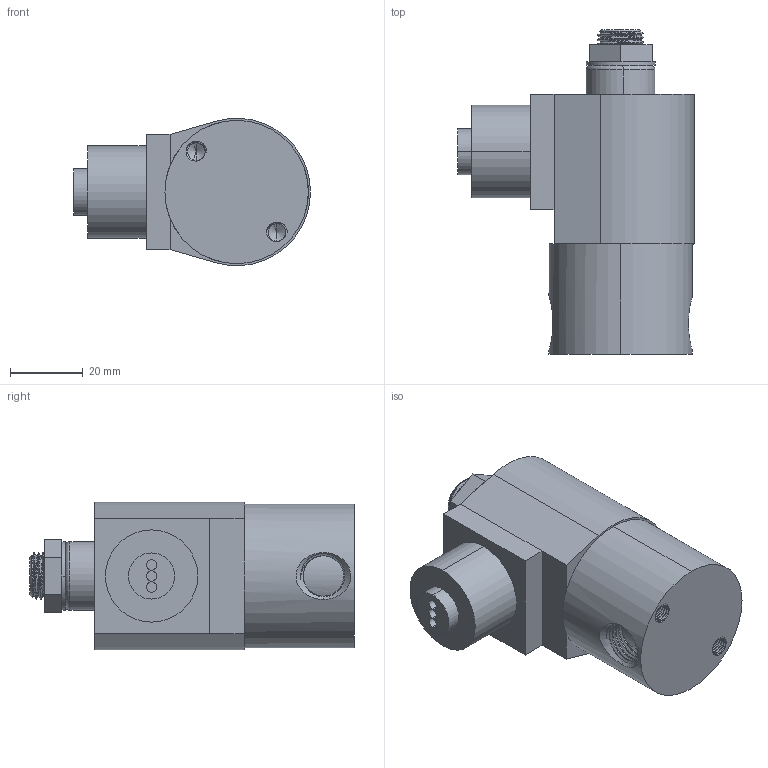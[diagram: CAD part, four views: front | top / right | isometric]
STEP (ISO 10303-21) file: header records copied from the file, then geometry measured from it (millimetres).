
FILE_DESCRIPTION (( 'STEP AP203' ), '1' );
FILE_NAME ('S302G_B.STEP', '2022-01-20T16:16:01', ( '' ), ( '' ), 'SwSTEP 2.0', 'SolidWorks 2020', '' );
FILE_SCHEMA (( 'CONFIG_CONTROL_DESIGN' ));
Length unit declared in the file: inch
Products named in the file (1): S302G_B
Bounding box: 65.23 x 89.36 x 40.57 mm (x, y, z)
Volume: 108545.6 mm3; surface area: 17275.1 mm2
Topology: 1 solids, 1 shells, 161 faces, 424 edges, 273 vertices
Faces by surface type: cylinder 82, plane 39, bspline 26, cone 12, torus 2
Entity records: 15725 total; most frequent: CARTESIAN_POINT 12295, ORIENTED_EDGE 840, DIRECTION 549, EDGE_CURVE 420, VERTEX_POINT 273, AXIS2_PLACEMENT_3D 204, EDGE_LOOP 173, FACE_OUTER_BOUND 161
